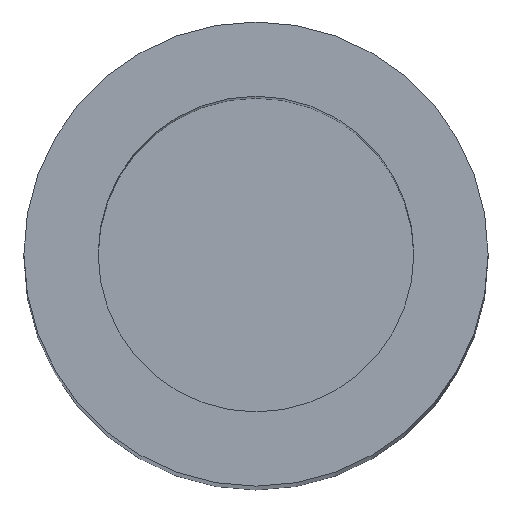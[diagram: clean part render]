
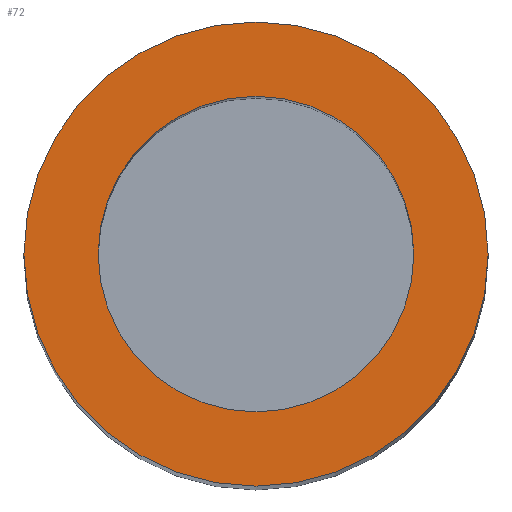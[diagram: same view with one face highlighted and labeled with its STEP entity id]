
A CAD part, top view. The second image highlights one B-rep face of the part: STEP entity #72.
In plain terms, the highlighted planar face has unit normal (0, 0, 1).
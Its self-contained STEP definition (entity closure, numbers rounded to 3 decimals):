
#8 = VERTEX_POINT ( 'NONE', #287 ) ;
#19 = DIRECTION ( 'NONE',  ( 0., 0., 1. ) ) ;
#32 = CARTESIAN_POINT ( 'NONE',  ( 0., 0., 118. ) ) ;
#49 = FACE_OUTER_BOUND ( 'NONE', #106, .T. ) ;
#50 = ORIENTED_EDGE ( 'NONE', *, *, #247, .T. ) ;
#53 = CIRCLE ( 'NONE', #122, 8.5 ) ;
#63 = FACE_BOUND ( 'NONE', #294, .T. ) ;
#66 = CARTESIAN_POINT ( 'NONE',  ( 12.5, 0., 118. ) ) ;
#72 = ADVANCED_FACE ( 'NONE', ( #63, #49 ), #166, .T. ) ;
#76 = VERTEX_POINT ( 'NONE', #66 ) ;
#92 = DIRECTION ( 'NONE',  ( 1., 0., 0. ) ) ;
#103 = VERTEX_POINT ( 'NONE', #280 ) ;
#106 = EDGE_LOOP ( 'NONE', ( #50, #179 ) ) ;
#108 = CARTESIAN_POINT ( 'NONE',  ( 0., 0., 118. ) ) ;
#122 = AXIS2_PLACEMENT_3D ( 'NONE', #229, #228, #222 ) ;
#124 = VERTEX_POINT ( 'NONE', #281 ) ;
#129 = DIRECTION ( 'NONE',  ( 0., 0., 1. ) ) ;
#134 = CIRCLE ( 'NONE', #180, 8.5 ) ;
#148 = CARTESIAN_POINT ( 'NONE',  ( 0., 0., 118. ) ) ;
#151 = DIRECTION ( 'NONE',  ( 1., 0., 0. ) ) ;
#153 = AXIS2_PLACEMENT_3D ( 'NONE', #148, #129, #92 ) ;
#154 = AXIS2_PLACEMENT_3D ( 'NONE', #190, #185, #173 ) ;
#162 = AXIS2_PLACEMENT_3D ( 'NONE', #108, #168, #241 ) ;
#166 = PLANE ( 'NONE',  #153 ) ;
#168 = DIRECTION ( 'NONE',  ( 0., 0., 1. ) ) ;
#172 = EDGE_CURVE ( 'NONE', #8, #103, #53, .T. ) ;
#173 = DIRECTION ( 'NONE',  ( 1., 0., 0. ) ) ;
#179 = ORIENTED_EDGE ( 'NONE', *, *, #290, .T. ) ;
#180 = AXIS2_PLACEMENT_3D ( 'NONE', #32, #19, #151 ) ;
#185 = DIRECTION ( 'NONE',  ( 0., 0., 1. ) ) ;
#190 = CARTESIAN_POINT ( 'NONE',  ( 0., 0., 118. ) ) ;
#203 = ORIENTED_EDGE ( 'NONE', *, *, #224, .F. ) ;
#209 = ORIENTED_EDGE ( 'NONE', *, *, #172, .F. ) ;
#213 = CIRCLE ( 'NONE', #162, 12.5 ) ;
#222 = DIRECTION ( 'NONE',  ( 1., 0., 0. ) ) ;
#224 = EDGE_CURVE ( 'NONE', #103, #8, #134, .T. ) ;
#228 = DIRECTION ( 'NONE',  ( 0., 0., 1. ) ) ;
#229 = CARTESIAN_POINT ( 'NONE',  ( 0., 0., 118. ) ) ;
#241 = DIRECTION ( 'NONE',  ( 1., 0., 0. ) ) ;
#247 = EDGE_CURVE ( 'NONE', #124, #76, #213, .T. ) ;
#277 = CIRCLE ( 'NONE', #154, 12.5 ) ;
#280 = CARTESIAN_POINT ( 'NONE',  ( -8.5, 0., 118. ) ) ;
#281 = CARTESIAN_POINT ( 'NONE',  ( -12.5, 0., 118. ) ) ;
#287 = CARTESIAN_POINT ( 'NONE',  ( 8.5, 0., 118. ) ) ;
#290 = EDGE_CURVE ( 'NONE', #76, #124, #277, .T. ) ;
#294 = EDGE_LOOP ( 'NONE', ( #209, #203 ) ) ;
